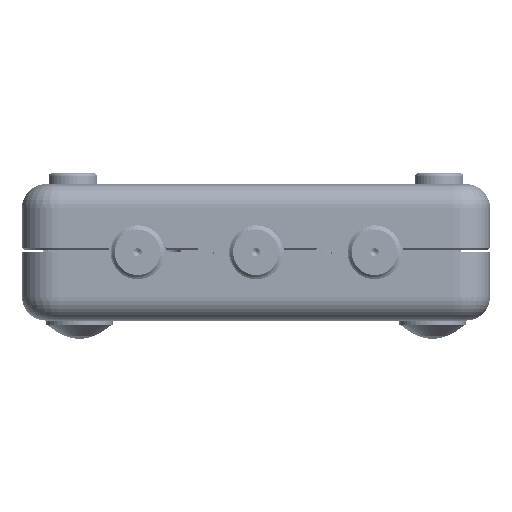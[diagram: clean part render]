
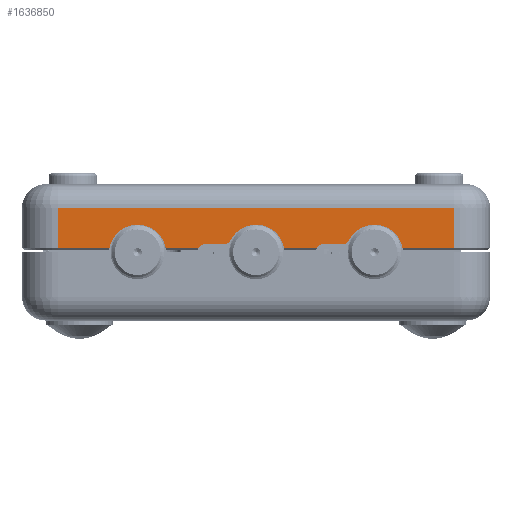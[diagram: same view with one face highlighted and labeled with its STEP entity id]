
A CAD part, left-side view. The second image highlights one B-rep face of the part: STEP entity #1636850.
In plain terms, the highlighted planar face has unit normal (-1, 0, 0) as drawn and (1, 0, 0) by its records, which use the part's own axes.
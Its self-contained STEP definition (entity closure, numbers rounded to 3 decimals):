
#1630570=CARTESIAN_POINT('',(2.311,-48.778,
-11.755));
#1630580=VERTEX_POINT('',#1630570);
#1630610=CARTESIAN_POINT('',(2.311,-25.4,-11.755));
#1630620=DIRECTION('',(0.,-1.,0.));
#1630630=VECTOR('',#1630620,1.);
#1630640=LINE('',#1630610,#1630630);
#1630650=CARTESIAN_POINT('',(2.311,-42.678,
-11.755));
#1630660=VERTEX_POINT('',#1630650);
#1630670=EDGE_CURVE('',#1630660,#1630580,#1630640,.T.);
#1631470=CARTESIAN_POINT('',(2.311,-32.151,
-11.755));
#1631480=VERTEX_POINT('',#1631470);
#1631490=CARTESIAN_POINT('',(2.311,-36.062,
-11.755));
#1631500=VERTEX_POINT('',#1631490);
#1631510=EDGE_CURVE('',#1631480,#1631500,#1630640,.T.);
#1632610=CARTESIAN_POINT('',(2.311,-22.092,
-11.755));
#1632620=VERTEX_POINT('',#1632610);
#1632650=CARTESIAN_POINT('',(2.311,-18.181,
-11.755));
#1632660=VERTEX_POINT('',#1632650);
#1632670=EDGE_CURVE('',#1632660,#1632620,#1630640,.T.);
#1633150=CARTESIAN_POINT('',(2.311,-2.022,
-11.755));
#1633160=VERTEX_POINT('',#1633150);
#1633170=CARTESIAN_POINT('',(2.311,-8.122,
-11.755));
#1633180=VERTEX_POINT('',#1633170);
#1633190=EDGE_CURVE('',#1633160,#1633180,#1630640,.T.);
#1633500=CARTESIAN_POINT('',(2.311,-17.349,
-12.339));
#1633510=DIRECTION('',(1.,0.,0.));
#1633520=DIRECTION('',(0.,-1.,0.));
#1633530=AXIS2_PLACEMENT_3D('',#1633500,#1633510,#1633520);
#1633540=CIRCLE('',#1633530,1.016);
#1633550=CARTESIAN_POINT('',(2.311,-17.349,
-11.323));
#1633560=VERTEX_POINT('',#1633550);
#1633570=EDGE_CURVE('',#1633560,#1632660,#1633540,.T.);
#1633990=CARTESIAN_POINT('',(2.311,-14.47,
-10.965));
#1634000=VERTEX_POINT('',#1633990);
#1634030=CARTESIAN_POINT('',(2.311,-11.43,-12.439));
#1634040=DIRECTION('',(1.,0.,0.));
#1634050=DIRECTION('',(0.,1.,0.));
#1634060=AXIS2_PLACEMENT_3D('',#1634030,#1634040,#1634050);
#1634070=CIRCLE('',#1634060,3.378);
#1634080=EDGE_CURVE('',#1633180,#1634000,#1634070,.T.);
#1634220=CARTESIAN_POINT('',(2.311,-15.041,
-11.323));
#1634230=VERTEX_POINT('',#1634220);
#1634350=CARTESIAN_POINT('',(2.311,-25.4,-11.323));
#1634360=DIRECTION('',(0.,1.,0.));
#1634370=VECTOR('',#1634360,1.);
#1634380=LINE('',#1634350,#1634370);
#1634390=EDGE_CURVE('',#1633560,#1634230,#1634380,.T.);
#1634580=CARTESIAN_POINT('',(2.311,-15.041,
-10.688));
#1634590=DIRECTION('',(1.,0.,0.));
#1634600=DIRECTION('',(0.,1.,0.));
#1634610=AXIS2_PLACEMENT_3D('',#1634580,#1634590,#1634600);
#1634620=CIRCLE('',#1634610,0.635);
#1634630=EDGE_CURVE('',#1634230,#1634000,#1634620,.T.);
#1634750=CARTESIAN_POINT('',(2.311,-31.319,
-12.339));
#1634760=DIRECTION('',(1.,0.,0.));
#1634770=DIRECTION('',(0.,-1.,0.));
#1634780=AXIS2_PLACEMENT_3D('',#1634750,#1634760,#1634770);
#1634790=CIRCLE('',#1634780,1.016);
#1634800=CARTESIAN_POINT('',(2.311,-31.319,
-11.323));
#1634810=VERTEX_POINT('',#1634800);
#1634820=EDGE_CURVE('',#1634810,#1631480,#1634790,.T.);
#1635110=CARTESIAN_POINT('',(2.311,-29.011,
-11.323));
#1635120=VERTEX_POINT('',#1635110);
#1635240=CARTESIAN_POINT('',(2.311,-25.4,-11.323));
#1635250=DIRECTION('',(0.,1.,0.));
#1635260=VECTOR('',#1635250,1.);
#1635270=LINE('',#1635240,#1635260);
#1635280=EDGE_CURVE('',#1634810,#1635120,#1635270,.T.);
#1635420=CARTESIAN_POINT('',(2.311,-28.44,
-10.965));
#1635430=VERTEX_POINT('',#1635420);
#1635560=CARTESIAN_POINT('',(2.311,-29.011,
-10.688));
#1635570=DIRECTION('',(1.,0.,0.));
#1635580=DIRECTION('',(0.,1.,0.));
#1635590=AXIS2_PLACEMENT_3D('',#1635560,#1635570,#1635580);
#1635600=CIRCLE('',#1635590,0.635);
#1635610=EDGE_CURVE('',#1635120,#1635430,#1635600,.T.);
#1635810=CARTESIAN_POINT('',(2.311,-25.4,-12.439));
#1635820=DIRECTION('',(1.,0.,0.));
#1635830=DIRECTION('',(0.,1.,0.));
#1635840=AXIS2_PLACEMENT_3D('',#1635810,#1635820,#1635830);
#1635850=CIRCLE('',#1635840,3.378);
#1635860=EDGE_CURVE('',#1632620,#1635430,#1635850,.T.);
#1636370=CARTESIAN_POINT('',(2.311,-52.07,0.699))
;
#1636380=DIRECTION('',(1.,0.,0.));
#1636390=DIRECTION('',(0.,-1.,0.));
#1636400=AXIS2_PLACEMENT_3D('',#1636370,#1636380,#1636390);
#1636410=PLANE('',#1636400);
#1636420=CARTESIAN_POINT('',(2.311,-48.778,
0.699));
#1636430=DIRECTION('',(0.,0.,1.));
#1636440=VECTOR('',#1636430,1.);
#1636450=LINE('',#1636420,#1636440);
#1636460=CARTESIAN_POINT('',(2.311,-48.778,-7.092))
;
#1636470=VERTEX_POINT('',#1636460);
#1636480=EDGE_CURVE('',#1630580,#1636470,#1636450,.T.);
#1636490=ORIENTED_EDGE('',*,*,#1636480,.F.);
#1636500=CARTESIAN_POINT('',(2.311,-25.4,-7.092));
#1636510=DIRECTION('',(0.,1.,0.));
#1636520=VECTOR('',#1636510,1.);
#1636530=LINE('',#1636500,#1636520);
#1636540=CARTESIAN_POINT('',(2.311,-2.022,-7.092));
#1636550=VERTEX_POINT('',#1636540);
#1636560=EDGE_CURVE('',#1636470,#1636550,#1636530,.T.);
#1636570=ORIENTED_EDGE('',*,*,#1636560,.F.);
#1636580=CARTESIAN_POINT('',(2.311,-2.022,
0.699));
#1636590=DIRECTION('',(0.,0.,1.));
#1636600=VECTOR('',#1636590,1.);
#1636610=LINE('',#1636580,#1636600);
#1636620=EDGE_CURVE('',#1633160,#1636550,#1636610,.T.);
#1636630=ORIENTED_EDGE('',*,*,#1636620,.T.);
#1636640=ORIENTED_EDGE('',*,*,#1633190,.F.);
#1636650=ORIENTED_EDGE('',*,*,#1634080,.F.);
#1636660=ORIENTED_EDGE('',*,*,#1634630,.T.);
#1636670=ORIENTED_EDGE('',*,*,#1634390,.T.);
#1636680=ORIENTED_EDGE('',*,*,#1633570,.F.);
#1636690=ORIENTED_EDGE('',*,*,#1632670,.F.);
#1636700=ORIENTED_EDGE('',*,*,#1635860,.F.);
#1636710=ORIENTED_EDGE('',*,*,#1635610,.T.);
#1636720=ORIENTED_EDGE('',*,*,#1635280,.T.);
#1636730=ORIENTED_EDGE('',*,*,#1634820,.F.);
#1636740=ORIENTED_EDGE('',*,*,#1631510,.F.);
#1636750=CARTESIAN_POINT('',(2.311,-39.37,-12.439));
#1636760=DIRECTION('',(1.,0.,0.));
#1636770=DIRECTION('',(0.,1.,0.));
#1636780=AXIS2_PLACEMENT_3D('',#1636750,#1636760,#1636770);
#1636790=CIRCLE('',#1636780,3.378);
#1636800=EDGE_CURVE('',#1631500,#1630660,#1636790,.T.);
#1636810=ORIENTED_EDGE('',*,*,#1636800,.F.);
#1636820=ORIENTED_EDGE('',*,*,#1630670,.F.);
#1636830=EDGE_LOOP('',(#1636820,#1636810,#1636740,#1636730,#1636720,
#1636710,#1636700,#1636690,#1636680,#1636670,#1636660,#1636650,#1636640,
#1636630,#1636570,#1636490));
#1636840=FACE_OUTER_BOUND('',#1636830,.T.);
#1636850=ADVANCED_FACE('',(#1636840),#1636410,.T.);
